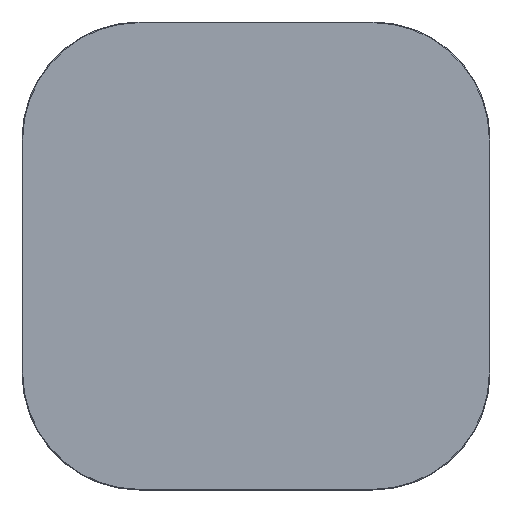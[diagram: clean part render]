
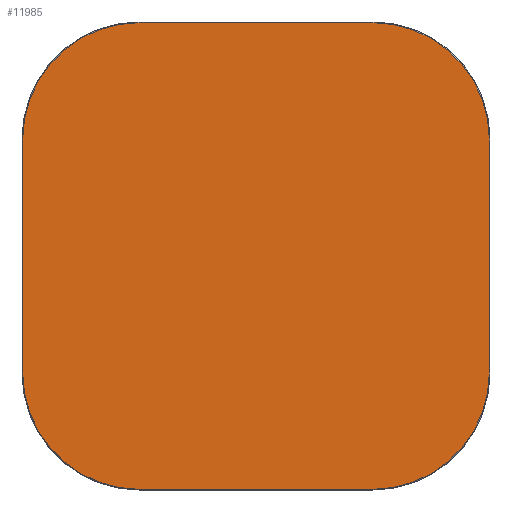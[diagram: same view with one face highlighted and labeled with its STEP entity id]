
A CAD part, top view. The second image highlights one B-rep face of the part: STEP entity #11985.
In plain terms, the highlighted planar face has unit normal (0, 0, 1).
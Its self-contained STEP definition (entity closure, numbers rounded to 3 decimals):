
#11910=CARTESIAN_POINT('',(0.,0.,20.));
#11911=DIRECTION('',(1.,0.,0.));
#11912=DIRECTION('',(0.,0.,1.));
#11913=AXIS2_PLACEMENT_3D('',#11910,#11912,#11911);
#11914=PLANE('',#11913);
#11915=CARTESIAN_POINT('',(-250.,-498.5,20.));
#11916=VERTEX_POINT('',#11915);
#11917=CARTESIAN_POINT('',(250.,-498.5,20.));
#11918=VERTEX_POINT('',#11917);
#11919=CARTESIAN_POINT('',(-250.,-498.5,20.));
#11920=DIRECTION('',(1.,0.,0.));
#11921=VECTOR('',#11920,500.);
#11922=LINE('',#11919,#11921);
#11923=EDGE_CURVE('',#11916,#11918,#11922,.T.);
#11924=ORIENTED_EDGE('E105',*,*,#11923,.T.);
#11925=CARTESIAN_POINT('',(498.5,-250.,20.));
#11926=VERTEX_POINT('',#11925);
#11927=CARTESIAN_POINT('',(250.,-250.,20.));
#11928=DIRECTION('',(0.,-1.,0.));
#11929=DIRECTION('',(0.,0.,1.));
#11930=AXIS2_PLACEMENT_3D('',#11927,#11929,#11928);
#11931=CIRCLE('',#11930,248.5);
#11932=EDGE_CURVE('',#11918,#11926,#11931,.T.);
#11933=ORIENTED_EDGE('E107',*,*,#11932,.T.);
#11934=CARTESIAN_POINT('',(498.5,250.,20.));
#11935=VERTEX_POINT('',#11934);
#11936=CARTESIAN_POINT('',(498.5,-250.,20.));
#11937=DIRECTION('',(0.,1.,0.));
#11938=VECTOR('',#11937,500.);
#11939=LINE('',#11936,#11938);
#11940=EDGE_CURVE('',#11926,#11935,#11939,.T.);
#11941=ORIENTED_EDGE('E109',*,*,#11940,.T.);
#11942=CARTESIAN_POINT('',(250.,498.5,20.));
#11943=VERTEX_POINT('',#11942);
#11944=CARTESIAN_POINT('',(250.,250.,20.));
#11945=DIRECTION('',(1.,0.,0.));
#11946=DIRECTION('',(0.,0.,1.));
#11947=AXIS2_PLACEMENT_3D('',#11944,#11946,#11945);
#11948=CIRCLE('',#11947,248.5);
#11949=EDGE_CURVE('',#11935,#11943,#11948,.T.);
#11950=ORIENTED_EDGE('E111',*,*,#11949,.T.);
#11951=CARTESIAN_POINT('',(-250.,498.5,20.));
#11952=VERTEX_POINT('',#11951);
#11953=CARTESIAN_POINT('',(250.,498.5,20.));
#11954=DIRECTION('',(-1.,0.,0.));
#11955=VECTOR('',#11954,500.);
#11956=LINE('',#11953,#11955);
#11957=EDGE_CURVE('',#11943,#11952,#11956,.T.);
#11958=ORIENTED_EDGE('E113',*,*,#11957,.T.);
#11959=CARTESIAN_POINT('',(-498.5,250.,20.));
#11960=VERTEX_POINT('',#11959);
#11961=CARTESIAN_POINT('',(-250.,250.,20.));
#11962=DIRECTION('',(0.,1.,0.));
#11963=DIRECTION('',(0.,0.,1.));
#11964=AXIS2_PLACEMENT_3D('',#11961,#11963,#11962);
#11965=CIRCLE('',#11964,248.5);
#11966=EDGE_CURVE('',#11952,#11960,#11965,.T.);
#11967=ORIENTED_EDGE('E115',*,*,#11966,.T.);
#11968=CARTESIAN_POINT('',(-498.5,-250.,20.));
#11969=VERTEX_POINT('',#11968);
#11970=CARTESIAN_POINT('',(-498.5,250.,20.));
#11971=DIRECTION('',(0.,-1.,0.));
#11972=VECTOR('',#11971,500.);
#11973=LINE('',#11970,#11972);
#11974=EDGE_CURVE('',#11960,#11969,#11973,.T.);
#11975=ORIENTED_EDGE('E117',*,*,#11974,.T.);
#11976=CARTESIAN_POINT('',(-250.,-250.,20.));
#11977=DIRECTION('',(-1.,0.,0.));
#11978=DIRECTION('',(-0.,0.,1.));
#11979=AXIS2_PLACEMENT_3D('',#11976,#11978,#11977);
#11980=CIRCLE('',#11979,248.5);
#11981=EDGE_CURVE('',#11969,#11916,#11980,.T.);
#11982=ORIENTED_EDGE('E119',*,*,#11981,.T.);
#11983=EDGE_LOOP('',(#11924,#11933,#11941,#11950,#11958,#11967,#11975,#11982));
#11984=FACE_OUTER_BOUND('',#11983,.T.);
#11985=ADVANCED_FACE('F2',(#11984),#11914,.T.);
